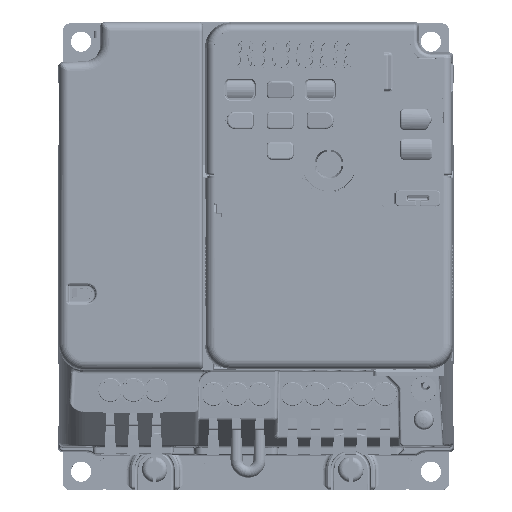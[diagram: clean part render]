
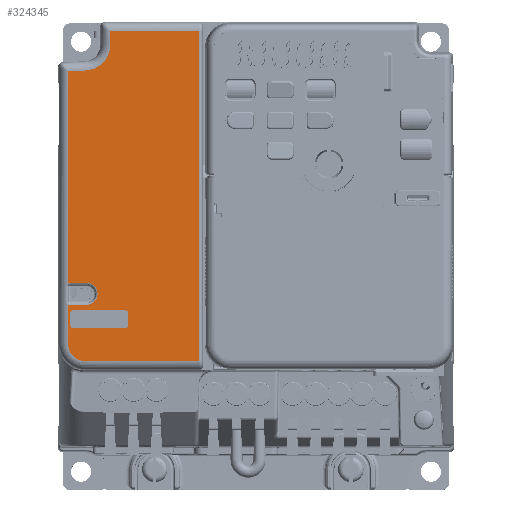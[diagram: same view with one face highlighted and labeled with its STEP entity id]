
A CAD part, top view. The second image highlights one B-rep face of the part: STEP entity #324345.
In plain terms, the highlighted planar face has unit normal (0, 0, 1).
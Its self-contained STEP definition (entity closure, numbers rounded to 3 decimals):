
#238344=DIRECTION('',(0.,-1.,0.));
#238345=VECTOR('',#238344,3.73);
#238346=CARTESIAN_POINT('',(-40.,125.5,
115.8));
#238347=LINE('',#238346,#238345);
#238352=CARTESIAN_POINT('',(-40.,125.5,
115.8));
#238387=CARTESIAN_POINT('',(-15.622,125.5,115.8));
#238389=DIRECTION('',(-1.,0.,0.));
#238390=VECTOR('',#238389,24.378);
#238391=CARTESIAN_POINT('',(-15.622,125.5,115.8));
#238392=LINE('',#238391,#238390);
#256753=CARTESIAN_POINT('',(-15.622,35.1,
115.8));
#256766=DIRECTION('',(1.,0.,0.));
#256767=VECTOR('',#256766,31.378);
#256768=CARTESIAN_POINT('',(-47.,35.1,115.8));
#256769=LINE('',#256768,#256767);
#256785=CARTESIAN_POINT('',(-51.044,56.544,
115.8));
#256786=CARTESIAN_POINT('',(-51.097,56.544,
115.8));
#256787=CARTESIAN_POINT('',(-51.201,56.535,
115.8));
#256788=CARTESIAN_POINT('',(-51.356,56.498,
115.8));
#256789=CARTESIAN_POINT('',(-51.453,56.458,
115.8));
#256790=CARTESIAN_POINT('',(-51.5,56.434,115.8));
#256792=DIRECTION('',(0.999,0.052,0.));
#256793=VECTOR('',#256792,4.873);
#256794=CARTESIAN_POINT('',(-51.5,114.525,115.8));
#256795=LINE('',#256794,#256793);
#256796=CARTESIAN_POINT('',(-47.,121.77,115.8));
#256797=DIRECTION('',(0.,0.,1.));
#256798=DIRECTION('',(0.052,-0.999,0.));
#256799=AXIS2_PLACEMENT_3D('',#256796,#256797,#256798);
#256801=CARTESIAN_POINT('',(-47.,39.6,115.8));
#256802=DIRECTION('',(0.,0.,-1.));
#256803=DIRECTION('',(0.,-1.,0.));
#256804=AXIS2_PLACEMENT_3D('',#256801,#256802,#256803);
#256806=CARTESIAN_POINT('',(-51.5,50.566,115.8));
#256807=CARTESIAN_POINT('',(-51.453,50.542,
115.8));
#256808=CARTESIAN_POINT('',(-51.356,50.502,
115.8));
#256809=CARTESIAN_POINT('',(-51.201,50.465,
115.8));
#256810=CARTESIAN_POINT('',(-51.097,50.456,
115.8));
#256811=CARTESIAN_POINT('',(-51.044,50.456,
115.8));
#256813=CARTESIAN_POINT('',(-46.5,53.5,115.8));
#256814=DIRECTION('',(0.,0.,1.));
#256815=DIRECTION('',(0.,-1.,0.));
#256816=AXIS2_PLACEMENT_3D('',#256813,#256814,#256815);
#256818=CARTESIAN_POINT('',(-50.,45.,115.8));
#256819=DIRECTION('',(0.,0.,1.));
#256820=DIRECTION('',(-1.,0.,0.));
#256821=AXIS2_PLACEMENT_3D('',#256818,#256819,#256820);
#256823=CARTESIAN_POINT('',(-36.,45.,115.8));
#256824=DIRECTION('',(0.,0.,1.));
#256825=DIRECTION('',(0.,-1.,0.));
#256826=AXIS2_PLACEMENT_3D('',#256823,#256824,#256825);
#256828=CARTESIAN_POINT('',(-36.,48.,115.8));
#256829=DIRECTION('',(0.,0.,1.));
#256830=DIRECTION('',(1.,0.,0.));
#256831=AXIS2_PLACEMENT_3D('',#256828,#256829,#256830);
#256833=CARTESIAN_POINT('',(-50.,48.,115.8));
#256834=DIRECTION('',(0.,0.,1.));
#256835=DIRECTION('',(0.,1.,0.));
#256836=AXIS2_PLACEMENT_3D('',#256833,#256834,#256835);
#256838=DIRECTION('',(1.,0.,0.));
#256839=VECTOR('',#256838,4.544);
#256840=CARTESIAN_POINT('',(-51.044,56.544,
115.8));
#256841=LINE('',#256840,#256839);
#256883=DIRECTION('',(-1.,0.,0.));
#256884=VECTOR('',#256883,4.544);
#256885=CARTESIAN_POINT('',(-46.5,50.456,115.8));
#256886=LINE('',#256885,#256884);
#256917=DIRECTION('',(0.,-1.,0.));
#256918=VECTOR('',#256917,10.966);
#256919=CARTESIAN_POINT('',(-51.5,50.566,115.8));
#256920=LINE('',#256919,#256918);
#256935=DIRECTION('',(0.,-1.,0.));
#256936=VECTOR('',#256935,58.091);
#256937=CARTESIAN_POINT('',(-51.5,114.525,115.8));
#256938=LINE('',#256937,#256936);
#257216=DIRECTION('',(0.,1.,0.));
#257217=VECTOR('',#257216,90.4);
#257218=CARTESIAN_POINT('',(-15.622,35.1,
115.8));
#257219=LINE('',#257218,#257217);
#257224=DIRECTION('',(0.,1.,0.));
#257225=VECTOR('',#257224,3.);
#257226=CARTESIAN_POINT('',(-51.,45.,115.8));
#257227=LINE('',#257226,#257225);
#257580=DIRECTION('',(1.,0.,0.));
#257581=VECTOR('',#257580,14.);
#257582=CARTESIAN_POINT('',(-50.,49.,115.8));
#257583=LINE('',#257582,#257581);
#257592=DIRECTION('',(0.,-1.,0.));
#257593=VECTOR('',#257592,3.);
#257594=CARTESIAN_POINT('',(-35.,48.,115.8));
#257595=LINE('',#257594,#257593);
#257604=DIRECTION('',(-1.,0.,0.));
#257605=VECTOR('',#257604,14.);
#257606=CARTESIAN_POINT('',(-36.,44.,115.8));
#257607=LINE('',#257606,#257605);
#286141=VERTEX_POINT('',#238352);
#286142=CARTESIAN_POINT('',(-40.,121.77,115.8));
#286143=VERTEX_POINT('',#286142);
#286144=VERTEX_POINT('',#238387);
#291149=VERTEX_POINT('',#256753);
#291150=CARTESIAN_POINT('',(-47.,35.1,115.8));
#291151=VERTEX_POINT('',#291150);
#291152=CARTESIAN_POINT('',(-51.5,39.6,115.8));
#291153=VERTEX_POINT('',#291152);
#291154=CARTESIAN_POINT('',(-51.044,56.544,
115.8));
#291155=CARTESIAN_POINT('',(-46.5,56.544,115.8));
#291156=VERTEX_POINT('',#291154);
#291157=VERTEX_POINT('',#291155);
#291158=VERTEX_POINT('',#256790);
#291159=CARTESIAN_POINT('',(-51.5,114.525,115.8));
#291160=VERTEX_POINT('',#291159);
#291161=CARTESIAN_POINT('',(-46.634,114.78,115.8));
#291162=VERTEX_POINT('',#291161);
#291163=CARTESIAN_POINT('',(-51.5,50.566,115.8));
#291164=VERTEX_POINT('',#291163);
#291165=VERTEX_POINT('',#256811);
#291166=CARTESIAN_POINT('',(-46.5,50.456,115.8));
#291167=VERTEX_POINT('',#291166);
#291168=CARTESIAN_POINT('',(-51.,45.,115.8));
#291169=CARTESIAN_POINT('',(-51.,48.,115.8));
#291170=VERTEX_POINT('',#291168);
#291171=VERTEX_POINT('',#291169);
#291172=CARTESIAN_POINT('',(-50.,44.,115.8));
#291173=VERTEX_POINT('',#291172);
#291174=CARTESIAN_POINT('',(-36.,44.,115.8));
#291175=VERTEX_POINT('',#291174);
#291176=CARTESIAN_POINT('',(-35.,45.,115.8));
#291177=VERTEX_POINT('',#291176);
#291178=CARTESIAN_POINT('',(-35.,48.,115.8));
#291179=VERTEX_POINT('',#291178);
#291180=CARTESIAN_POINT('',(-36.,49.,115.8));
#291181=VERTEX_POINT('',#291180);
#291182=CARTESIAN_POINT('',(-50.,49.,115.8));
#291183=VERTEX_POINT('',#291182);
#324296=CARTESIAN_POINT('',(0.,0.,115.8));
#324297=DIRECTION('',(0.,0.,1.));
#324298=DIRECTION('',(1.,0.,0.));
#324299=AXIS2_PLACEMENT_3D('',#324296,#324297,#324298);
#324300=PLANE('',#324299);
#324302=ORIENTED_EDGE('',*,*,#324301,.F.);
#324304=ORIENTED_EDGE('',*,*,#324303,.T.);
#324306=ORIENTED_EDGE('',*,*,#324305,.F.);
#324308=ORIENTED_EDGE('',*,*,#324307,.T.);
#324310=ORIENTED_EDGE('',*,*,#324309,.T.);
#324311=ORIENTED_EDGE('',*,*,#302589,.F.);
#324312=ORIENTED_EDGE('',*,*,#302666,.F.);
#324314=ORIENTED_EDGE('',*,*,#324313,.F.);
#324315=ORIENTED_EDGE('',*,*,#324276,.F.);
#324316=ORIENTED_EDGE('',*,*,#324286,.T.);
#324318=ORIENTED_EDGE('',*,*,#324317,.F.);
#324320=ORIENTED_EDGE('',*,*,#324319,.T.);
#324322=ORIENTED_EDGE('',*,*,#324321,.F.);
#324324=ORIENTED_EDGE('',*,*,#324323,.T.);
#324325=EDGE_LOOP('',(#324302,#324304,#324306,#324308,#324310,#324311,#324312,
#324314,#324315,#324316,#324318,#324320,#324322,#324324));
#324326=FACE_OUTER_BOUND('',#324325,.F.);
#324328=ORIENTED_EDGE('',*,*,#324327,.F.);
#324330=ORIENTED_EDGE('',*,*,#324329,.T.);
#324332=ORIENTED_EDGE('',*,*,#324331,.F.);
#324334=ORIENTED_EDGE('',*,*,#324333,.T.);
#324336=ORIENTED_EDGE('',*,*,#324335,.F.);
#324338=ORIENTED_EDGE('',*,*,#324337,.T.);
#324340=ORIENTED_EDGE('',*,*,#324339,.F.);
#324342=ORIENTED_EDGE('',*,*,#324341,.T.);
#324343=EDGE_LOOP('',(#324328,#324330,#324332,#324334,#324336,#324338,#324340,
#324342));
#324344=FACE_BOUND('',#324343,.F.);
#324345=ADVANCED_FACE('',(#324326,#324344),#324300,.T.);
#256791=B_SPLINE_CURVE_WITH_KNOTS('',3,(#256785,#256786,#256787,#256788,#256789,
#256790),.UNSPECIFIED.,.F.,.F.,(4,1,1,4),(0.,0.333,
0.667,1.),.UNSPECIFIED.);
#256800=CIRCLE('',#256799,7.);
#256805=CIRCLE('',#256804,4.5);
#256812=B_SPLINE_CURVE_WITH_KNOTS('',3,(#256806,#256807,#256808,#256809,#256810,
#256811),.UNSPECIFIED.,.F.,.F.,(4,1,1,4),(0.,0.333,
0.667,1.),.UNSPECIFIED.);
#256817=CIRCLE('',#256816,3.044);
#256822=CIRCLE('',#256821,1.);
#256827=CIRCLE('',#256826,1.);
#256832=CIRCLE('',#256831,1.);
#256837=CIRCLE('',#256836,1.);
#302589=EDGE_CURVE('',#286141,#286143,#238347,.T.);
#302666=EDGE_CURVE('',#286144,#286141,#238392,.T.);
#324276=EDGE_CURVE('',#291151,#291149,#256769,.T.);
#324286=EDGE_CURVE('',#291151,#291153,#256805,.T.);
#324301=EDGE_CURVE('',#291156,#291157,#256841,.T.);
#324303=EDGE_CURVE('',#291156,#291158,#256791,.T.);
#324305=EDGE_CURVE('',#291160,#291158,#256938,.T.);
#324307=EDGE_CURVE('',#291160,#291162,#256795,.T.);
#324309=EDGE_CURVE('',#291162,#286143,#256800,.T.);
#324313=EDGE_CURVE('',#291149,#286144,#257219,.T.);
#324317=EDGE_CURVE('',#291164,#291153,#256920,.T.);
#324319=EDGE_CURVE('',#291164,#291165,#256812,.T.);
#324321=EDGE_CURVE('',#291167,#291165,#256886,.T.);
#324323=EDGE_CURVE('',#291167,#291157,#256817,.T.);
#324327=EDGE_CURVE('',#291170,#291171,#257227,.T.);
#324329=EDGE_CURVE('',#291170,#291173,#256822,.T.);
#324331=EDGE_CURVE('',#291175,#291173,#257607,.T.);
#324333=EDGE_CURVE('',#291175,#291177,#256827,.T.);
#324335=EDGE_CURVE('',#291179,#291177,#257595,.T.);
#324337=EDGE_CURVE('',#291179,#291181,#256832,.T.);
#324339=EDGE_CURVE('',#291183,#291181,#257583,.T.);
#324341=EDGE_CURVE('',#291183,#291171,#256837,.T.);
